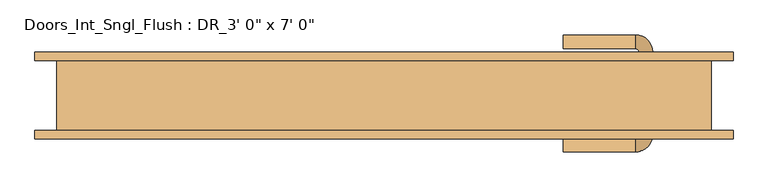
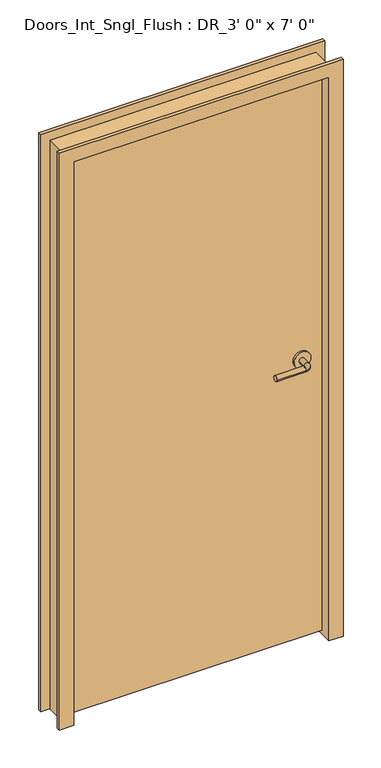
"""IFC4 building model written with IfcOpenShell, lengths in millimetres: door geometry."""

from ifc_helpers import new_model, si_unit, point, frame, frame_2d, origin, place, context, project, spatial, polyline, circle_curve, ellipse_curve, trimmed, segment, composite_curve, outline, extrude, faceted_brep, source, transform, mapped, element, save
from ifc_brep_helpers import plane_surface, cylinder_surface, revolved_surface, advanced_brep


def door_0282fff6(model_context):
    return source(origin(), model_context, "Body", "SolidModel", [
        advanced_brep(
        [(391.0, 33.4, 1066.8), (371.0, 33.4, 1066.8), (371.0, 63.4, 1066.8), (391.0, 63.4, 1066.8), (366.0, 68.4, 1066.8), (366.0, 88.4, 1066.8), (261.0, 88.4, 1066.8), (261.0, 68.4, 1066.8)],
        [
            (0, 1, circle_curve(frame((381.0, 33.4, 1066.8), z_axis=(0.0, -1.0, 0.0), x_axis=(-1.0, 0.0, 0.0)), 10.0)),
            (1, 0, circle_curve(frame((381.0, 33.4, 1066.8), z_axis=(0.0, -1.0, 0.0), x_axis=(-1.0, 0.0, 0.0)), 10.0)),
            (1, 2),
            (2, 3, circle_curve(frame((381.0, 63.4, 1066.8), z_axis=(0.0, -1.0, 0.0), x_axis=(-1.0, 0.0, 0.0)), 10.0)),
            (3, 0),
            (3, 2, circle_curve(frame((381.0, 63.4, 1066.8), z_axis=(0.0, -1.0, 0.0), x_axis=(-1.0, 0.0, 0.0)), 10.0)),
            (4, 5, circle_curve(frame((366.0, 78.4, 1066.8), z_axis=(1.0, 0.0, 0.0), x_axis=(0.0, -1.0, 0.0)), 10.0)),
            (5, 3, circle_curve(frame((366.0, 63.4, 1066.8), z_axis=(0.0, 0.0, -1.0), x_axis=(1.0, 0.0, 0.0)), 25.0)),
            (2, 4, circle_curve(frame((366.0, 63.4, 1066.8), z_axis=(0.0, 0.0, 1.0), x_axis=(1.0, 0.0, 0.0)), 5.0)),
            (5, 4, circle_curve(frame((366.0, 78.4, 1066.8), z_axis=(1.0, 0.0, 0.0), x_axis=(0.0, -1.0, 0.0)), 10.0)),
            (6, 7, circle_curve(frame((261.0, 78.4, 1066.8), z_axis=(-1.0, 0.0, 0.0), x_axis=(0.0, -1.0, 0.0)), 10.0)),
            (7, 6, circle_curve(frame((261.0, 78.4, 1066.8), z_axis=(-1.0, 0.0, 0.0), x_axis=(0.0, -1.0, 0.0)), 10.0)),
            (4, 7),
            (6, 5),
        ],
        [
            plane_surface(frame((381.0, 33.4, 1066.8), z_axis=(0.0, -1.0, 0.0), x_axis=(0.0, 0.0, 1.0))),
            cylinder_surface(frame((381.0, 33.4, 1066.8), z_axis=(0.0, -1.0, 0.0), x_axis=(-1.0, 0.0, 0.0)), 10.0),
            revolved_surface(trimmed(ellipse_curve(frame((381.0, 63.4, 1066.8), z_axis=(0.0, 1.0, 0.0), x_axis=(-1.0, 0.0, 0.0)), 10.0, 10.0), [point((391.0, 63.4, 1066.8))], [point((371.0, 63.4, 1066.8))], True, "CARTESIAN"), (366.0, 63.4, 1066.8), (0.0, 0.0, -1.0)),
            revolved_surface(trimmed(ellipse_curve(frame((381.0, 63.4, 1066.8), z_axis=(0.0, 1.0, 0.0), x_axis=(-1.0, 0.0, 0.0)), 10.0, 10.0), [point((371.0, 63.4, 1066.8))], [point((391.0, 63.4, 1066.8))], True, "CARTESIAN"), (366.0, 63.4, 1066.8), (0.0, 0.0, -1.0)),
            plane_surface(frame((261.0, 78.4, 1066.8), z_axis=(-1.0, 0.0, 0.0), x_axis=(0.0, 0.0, 1.0))),
            cylinder_surface(frame((366.0, 78.4, 1066.8), z_axis=(1.0, 0.0, 0.0), x_axis=(0.0, -1.0, 0.0)), 10.0),
        ],
        [
            (0, [[1, 2]]),
            (1, [[3, 4, 5, -2]]),
            (1, [[-5, 6, -3, -1]]),
            (2, [[7, 8, -4, 9]]),
            (3, [[10, -9, -6, -8]]),
            (4, [[11, 12]]),
            (5, [[13, -11, 14, -7]]),
            (5, [[-14, -12, -13, -10]]),
        ],
    ),
        extrude(outline(composite_curve([segment(trimmed(circle_curve(frame_2d((1066.8, 383.5)), 30.0), [point((1066.8, 413.5))], [point((1066.8, 353.5))], False, "CARTESIAN"), True, "CONTINUOUS"), segment(trimmed(circle_curve(frame_2d((1066.8, 383.5)), 30.0), [point((1066.8, 353.5))], [point((1066.8, 413.5))], False, "CARTESIAN"), True, "CONTINUOUS")], self_intersect=False)), frame((0.0, 25.4, 0.0), z_axis=(0.0, 1.0, 0.0), x_axis=(0.0, 0.0, 1.0)), (0.0, 0.0, 1.0), 8.0),
        advanced_brep(
        [(391.0, -27.05, 1066.8), (371.0, -27.05, 1066.8), (391.0, -57.05, 1066.8), (371.0, -57.05, 1066.8), (366.0, -62.05, 1066.8), (366.0, -82.05, 1066.8), (261.0, -82.05, 1066.8), (261.0, -62.05, 1066.8)],
        [
            (0, 1, circle_curve(frame((381.0, -27.05, 1066.8), z_axis=(0.0, 1.0, 0.0), x_axis=(-1.0, 0.0, 0.0)), 10.0)),
            (1, 0, circle_curve(frame((381.0, -27.05, 1066.8), z_axis=(0.0, 1.0, 0.0), x_axis=(-1.0, 0.0, 0.0)), 10.0)),
            (0, 2),
            (2, 3, circle_curve(frame((381.0, -57.05, 1066.8), z_axis=(0.0, 1.0, 0.0), x_axis=(-1.0, 0.0, 0.0)), 10.0)),
            (3, 1),
            (3, 2, circle_curve(frame((381.0, -57.05, 1066.8), z_axis=(0.0, 1.0, 0.0), x_axis=(-1.0, 0.0, 0.0)), 10.0)),
            (4, 3, circle_curve(frame((366.0, -57.05, 1066.8), z_axis=(0.0, 0.0, 1.0), x_axis=(1.0, 0.0, 0.0)), 5.0)),
            (2, 5, circle_curve(frame((366.0, -57.05, 1066.8), z_axis=(0.0, 0.0, -1.0), x_axis=(1.0, 0.0, 0.0)), 25.0)),
            (5, 4, circle_curve(frame((366.0, -72.05, 1066.8), z_axis=(1.0, 0.0, 0.0), x_axis=(0.0, 1.0, 0.0)), 10.0)),
            (4, 5, circle_curve(frame((366.0, -72.05, 1066.8), z_axis=(1.0, 0.0, 0.0), x_axis=(0.0, 1.0, 0.0)), 10.0)),
            (6, 7, circle_curve(frame((261.0, -72.05, 1066.8), z_axis=(-1.0, 0.0, 0.0), x_axis=(0.0, 1.0, 0.0)), 10.0)),
            (7, 6, circle_curve(frame((261.0, -72.05, 1066.8), z_axis=(-1.0, 0.0, 0.0), x_axis=(0.0, 1.0, 0.0)), 10.0)),
            (5, 6),
            (7, 4),
        ],
        [
            plane_surface(frame((381.0, -27.05, 1066.8), z_axis=(0.0, 1.0, 0.0), x_axis=(0.0, 0.0, 1.0))),
            cylinder_surface(frame((381.0, -27.05, 1066.8), z_axis=(0.0, 1.0, 0.0), x_axis=(-1.0, 0.0, 0.0)), 10.0),
            revolved_surface(trimmed(ellipse_curve(frame((381.0, -57.05, 1066.8), z_axis=(0.0, 1.0, 0.0), x_axis=(-1.0, 0.0, 0.0)), 10.0, 10.0), [point((391.0, -57.05, 1066.8))], [point((371.0, -57.05, 1066.8))], True, "CARTESIAN"), (366.0, -57.05, 1066.8), (0.0, 0.0, -1.0)),
            revolved_surface(trimmed(ellipse_curve(frame((381.0, -57.05, 1066.8), z_axis=(0.0, 1.0, 0.0), x_axis=(-1.0, 0.0, 0.0)), 10.0, 10.0), [point((371.0, -57.05, 1066.8))], [point((391.0, -57.05, 1066.8))], True, "CARTESIAN"), (366.0, -57.05, 1066.8), (0.0, 0.0, -1.0)),
            plane_surface(frame((261.0, -72.05, 1066.8), z_axis=(-1.0, 0.0, 0.0), x_axis=(0.0, 0.0, 1.0))),
            cylinder_surface(frame((366.0, -72.05, 1066.8), z_axis=(1.0, 0.0, 0.0), x_axis=(0.0, 1.0, 0.0)), 10.0),
        ],
        [
            (0, [[1, 2]]),
            (1, [[-1, 3, 4, 5]]),
            (1, [[-2, -5, 6, -3]]),
            (2, [[7, -4, 8, 9]]),
            (3, [[-8, -6, -7, 10]]),
            (4, [[11, 12]]),
            (5, [[-9, 13, -12, 14]]),
            (5, [[-10, -14, -11, -13]]),
        ],
    ),
        extrude(outline(composite_curve([segment(trimmed(circle_curve(frame_2d((1066.8, 383.5)), 30.0), [point((1066.8, 413.5))], [point((1066.8, 353.5))], False, "CARTESIAN"), True, "CONTINUOUS"), segment(trimmed(circle_curve(frame_2d((1066.8, 383.5)), 30.0), [point((1066.8, 353.5))], [point((1066.8, 413.5))], False, "CARTESIAN"), True, "CONTINUOUS")], self_intersect=False)), frame((0.0, -27.05, 0.0), z_axis=(0.0, 1.0, 0.0), x_axis=(0.0, 0.0, 1.0)), (0.0, 0.0, 1.0), 8.0),
        extrude(outline(polyline([(-457.2, 25.4), (457.2, 25.4), (457.2, -19.05), (-457.2, -19.05), (-457.2, 25.4)])), frame((0.0, 0.0, 12.7), z_axis=(0.0, 0.0, 1.0), x_axis=(1.0, 0.0, 0.0)), (0.0, 0.0, 1.0), 2120.9),
        faceted_brep([(-457.2, -63.5, 0.0), (-508.0, -63.5, 0.0), (-508.0, -50.8, 0.0), (-476.25, -50.8, 0.0), (-476.25, 50.8, 0.0), (-508.0, 50.8, 0.0), (-508.0, 63.5, 0.0), (-457.2, 63.5, 0.0), (-457.2, -63.5, 2133.6), (457.2, -63.5, 2133.6), (457.2, -63.5, 0.0), (508.0, -63.5, 0.0), (508.0, -63.5, 2184.4), (-508.0, -63.5, 2184.4), (-508.0, -50.8, 2184.4), (508.0, -50.8, 2184.4), (508.0, -50.8, 0.0), (476.25, -50.8, 0.0), (476.25, -50.8, 2152.65), (-476.25, -50.8, 2152.65), (-476.25, 50.8, 2152.65), (476.25, 50.8, 2152.65), (476.25, 50.8, 0.0), (508.0, 50.8, 0.0), (508.0, 50.8, 2184.4), (-508.0, 50.8, 2184.4), (-508.0, 63.5, 2184.4), (508.0, 63.5, 2184.4), (508.0, 63.5, 0.0), (457.2, 63.5, 0.0), (457.2, 63.5, 2133.6), (-457.2, 63.5, 2133.6)], [[[0, 1, 2, 3, 4, 5, 6, 7]], [[1, 0, 8, 9, 10, 11, 12, 13]], [[2, 1, 13, 14]], [[3, 2, 14, 15, 16, 17, 18, 19]], [[4, 3, 19, 20]], [[5, 4, 20, 21, 22, 23, 24, 25]], [[6, 5, 25, 26]], [[7, 6, 26, 27, 28, 29, 30, 31]], [[0, 7, 31, 8]], [[9, 30, 29, 10]], [[10, 29, 28, 23, 22, 17, 16, 11]], [[15, 12, 11, 16]], [[27, 24, 23, 28]], [[21, 18, 17, 22]], [[20, 19, 18, 21]], [[8, 31, 30, 9]], [[14, 13, 12, 15]], [[26, 25, 24, 27]]]),
    ])


if __name__ == "__main__":
    model = new_model("IFC4")
    model_context = context("Model", 3, world=origin())
    ifc_project = project(units=[si_unit("LENGTHUNIT", "METRE", prefix="MILLI")], contexts=[model_context])
    site = spatial("IfcSite", under=ifc_project)
    building = spatial("IfcBuilding", under=site)
    placement = place(None, origin())
    door_shape = door_0282fff6(model_context)
    element("IfcDoor", 1, ObjectType="Doors_Int_Sngl_Flush : DR_3' 0\" x 7' 0\"", at=placement, inside=building, context=model_context, shape_type="MappedRepresentation", body=[
        mapped(door_shape, transform((0.0, 0.0, 0.0), x_axis=(1.0, 0.0, 0.0), y_axis=(0.0, 1.0, 0.0), z_axis=(0.0, 0.0, 1.0))),
    ])
    save(model, "model.ifc")
